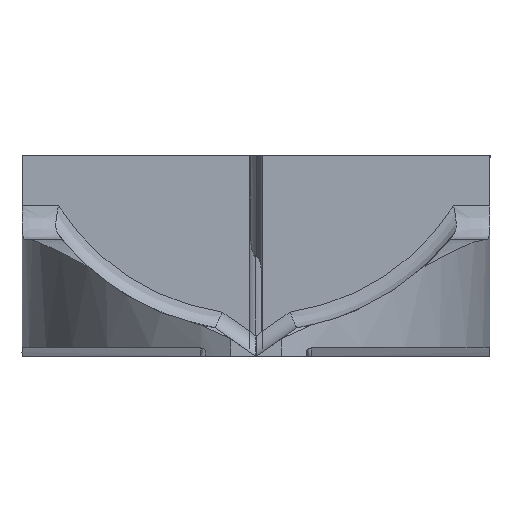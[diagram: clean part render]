
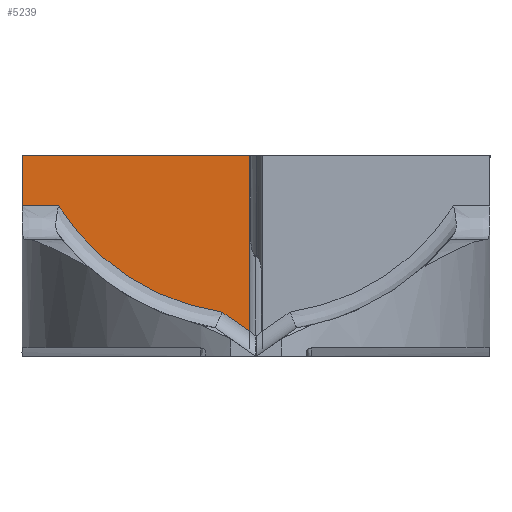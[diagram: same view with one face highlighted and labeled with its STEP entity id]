
A CAD part, left-side view. The second image highlights one B-rep face of the part: STEP entity #5239.
In plain terms, the highlighted planar face has unit normal (-1, 0, 0).
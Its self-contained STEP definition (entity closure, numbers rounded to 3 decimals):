
#9 = FACE_OUTER_BOUND ( 'NONE', #4155, .T. ) ;
#91 = VECTOR ( 'NONE', #4451, 1000. ) ;
#124 = CARTESIAN_POINT ( 'NONE',  ( -44., 2.184, -9.329 ) ) ;
#191 = VERTEX_POINT ( 'NONE', #1487 ) ;
#226 = CARTESIAN_POINT ( 'NONE',  ( -44., 0.4, -10.499 ) ) ;
#290 = LINE ( 'NONE', #6603, #6231 ) ;
#357 = CARTESIAN_POINT ( 'NONE',  ( -44., 0.4, -10.499 ) ) ;
#453 = ORIENTED_EDGE ( 'NONE', *, *, #5933, .F. ) ;
#462 = EDGE_CURVE ( 'NONE', #191, #6009, #1528, .T. ) ;
#823 = DIRECTION ( 'NONE',  ( -1., 0., 0. ) ) ;
#837 = CARTESIAN_POINT ( 'NONE',  ( -44., 2.905, -9.195 ) ) ;
#1000 = CARTESIAN_POINT ( 'NONE',  ( -44., 2.813, -9.215 ) ) ;
#1079 = CARTESIAN_POINT ( 'NONE',  ( -44., 2.727, -9.232 ) ) ;
#1224 = VECTOR ( 'NONE', #6649, 1000. ) ;
#1327 = CARTESIAN_POINT ( 'NONE',  ( -44., 2.433, -9.287 ) ) ;
#1487 = CARTESIAN_POINT ( 'NONE',  ( -44., 2.037, -9.353 ) ) ;
#1500 = LINE ( 'NONE', #3839, #91 ) ;
#1528 = LINE ( 'NONE', #3666, #4474 ) ;
#1927 = CARTESIAN_POINT ( 'NONE',  ( -44., 4., -8.917 ) ) ;
#1957 = CARTESIAN_POINT ( 'NONE',  ( -44., 4.359, -8.808 ) ) ;
#1994 = CARTESIAN_POINT ( 'NONE',  ( -44., 3.759, -8.986 ) ) ;
#1998 = CARTESIAN_POINT ( 'NONE',  ( -44., 0.4, 0. ) ) ;
#2020 = VERTEX_POINT ( 'NONE', #7423 ) ;
#2191 = AXIS2_PLACEMENT_3D ( 'NONE', #226, #823, #4961 ) ;
#2421 = CARTESIAN_POINT ( 'NONE',  ( -44., 2.996, -9.176 ) ) ;
#2725 = DIRECTION ( 'NONE',  ( 0., -0.819, -0.574 ) ) ;
#2852 = EDGE_CURVE ( 'NONE', #3875, #2020, #7164, .T. ) ;
#2935 = EDGE_CURVE ( 'NONE', #7650, #191, #5537, .T. ) ;
#3147 = CARTESIAN_POINT ( 'NONE',  ( -44., 11.822, -3. ) ) ;
#3152 = CARTESIAN_POINT ( 'NONE',  ( -44., 13.992, 0. ) ) ;
#3214 = CARTESIAN_POINT ( 'NONE',  ( -44., 4.714, -8.685 ) ) ;
#3232 = DIRECTION ( 'NONE',  ( 0., -1., 0. ) ) ;
#3320 = CARTESIAN_POINT ( 'NONE',  ( -44., 2.529, -9.27 ) ) ;
#3635 = CARTESIAN_POINT ( 'NONE',  ( -44., 2.423, -9.288 ) ) ;
#3666 = CARTESIAN_POINT ( 'NONE',  ( -44., 2.037, -9.353 ) ) ;
#3729 = PLANE ( 'NONE',  #2191 ) ;
#3743 = CARTESIAN_POINT ( 'NONE',  ( -44., 5.886, -8.242 ) ) ;
#3839 = CARTESIAN_POINT ( 'NONE',  ( -44., 0.4, 0. ) ) ;
#3875 = VERTEX_POINT ( 'NONE', #6198 ) ;
#4146 = VECTOR ( 'NONE', #3232, 1000. ) ;
#4155 = EDGE_LOOP ( 'NONE', ( #4530, #4791, #5905, #5632, #453, #5756 ) ) ;
#4246 = CARTESIAN_POINT ( 'NONE',  ( -44., 2.311, -9.308 ) ) ;
#4451 = DIRECTION ( 'NONE',  ( 0., 0., -1. ) ) ;
#4474 = VECTOR ( 'NONE', #2725, 1000. ) ;
#4530 = ORIENTED_EDGE ( 'NONE', *, *, #2852, .F. ) ;
#4791 = ORIENTED_EDGE ( 'NONE', *, *, #5519, .T. ) ;
#4831 = CARTESIAN_POINT ( 'NONE',  ( -44., 2.473, -9.28 ) ) ;
#4863 = CARTESIAN_POINT ( 'NONE',  ( -44., 2.037, -9.353 ) ) ;
#4944 = CARTESIAN_POINT ( 'NONE',  ( -44., 2.449, -9.284 ) ) ;
#4961 = DIRECTION ( 'NONE',  ( 0., 0., 1. ) ) ;
#4981 = CARTESIAN_POINT ( 'NONE',  ( -44., 11.285, -3.847 ) ) ;
#5038 = CARTESIAN_POINT ( 'NONE',  ( -44., 3.394, -9.083 ) ) ;
#5239 = ADVANCED_FACE ( 'NONE', ( #9 ), #3729, .T. ) ;
#5285 = VERTEX_POINT ( 'NONE', #1998 ) ;
#5396 = DIRECTION ( 'NONE',  ( 0., -1., 0. ) ) ;
#5519 = EDGE_CURVE ( 'NONE', #3875, #7650, #5590, .T. ) ;
#5537 = B_SPLINE_CURVE_WITH_KNOTS ( 'NONE', 3,
 ( #6963, #4981, #6792, #7175, #7260, #6059, #3743, #3214, #1957, #1927, #1994, #6666, #5038, #6696, #2421, #837, #7636, #1000, #1079, #6727, #3320, #4831, #4944, #1327, #3635, #4246, #124, #4863 ),
 .UNSPECIFIED., .F., .F.,
 ( 4, 2, 2, 2, 1, 2, 2, 1, 1, 2, 2, 1, 1, 1, 2, 2, 4 ),
 ( 0., 0.25, 0.5, 0.75, 0.812, 0.844, 0.875, 0.906, 0.922, 0.93, 0.937, 0.953, 0.961, 0.965, 0.967, 0.969, 1. ),
 .UNSPECIFIED. ) ;
#5590 = LINE ( 'NONE', #7436, #4146 ) ;
#5632 = ORIENTED_EDGE ( 'NONE', *, *, #462, .T. ) ;
#5756 = ORIENTED_EDGE ( 'NONE', *, *, #7485, .F. ) ;
#5905 = ORIENTED_EDGE ( 'NONE', *, *, #2935, .T. ) ;
#5933 = EDGE_CURVE ( 'NONE', #5285, #6009, #1500, .T. ) ;
#6009 = VERTEX_POINT ( 'NONE', #357 ) ;
#6059 = CARTESIAN_POINT ( 'NONE',  ( -44., 6.785, -7.787 ) ) ;
#6198 = CARTESIAN_POINT ( 'NONE',  ( -44., 13.992, -3. ) ) ;
#6231 = VECTOR ( 'NONE', #5396, 1000. ) ;
#6603 = CARTESIAN_POINT ( 'NONE',  ( -44., 14., 0. ) ) ;
#6649 = DIRECTION ( 'NONE',  ( 0., 0., 1. ) ) ;
#6666 = CARTESIAN_POINT ( 'NONE',  ( -44., 3.64, -9.019 ) ) ;
#6696 = CARTESIAN_POINT ( 'NONE',  ( -44., 3.21, -9.128 ) ) ;
#6727 = CARTESIAN_POINT ( 'NONE',  ( -44., 2.638, -9.249 ) ) ;
#6792 = CARTESIAN_POINT ( 'NONE',  ( -44., 10.657, -4.634 ) ) ;
#6963 = CARTESIAN_POINT ( 'NONE',  ( -44., 11.822, -3. ) ) ;
#7164 = LINE ( 'NONE', #3152, #1224 ) ;
#7175 = CARTESIAN_POINT ( 'NONE',  ( -44., 9.247, -6.059 ) ) ;
#7260 = CARTESIAN_POINT ( 'NONE',  ( -44., 8.466, -6.695 ) ) ;
#7423 = CARTESIAN_POINT ( 'NONE',  ( -44., 13.992, 0. ) ) ;
#7436 = CARTESIAN_POINT ( 'NONE',  ( -44., 13.992, -3. ) ) ;
#7485 = EDGE_CURVE ( 'NONE', #2020, #5285, #290, .T. ) ;
#7636 = CARTESIAN_POINT ( 'NONE',  ( -44., 2.844, -9.208 ) ) ;
#7650 = VERTEX_POINT ( 'NONE', #3147 ) ;
